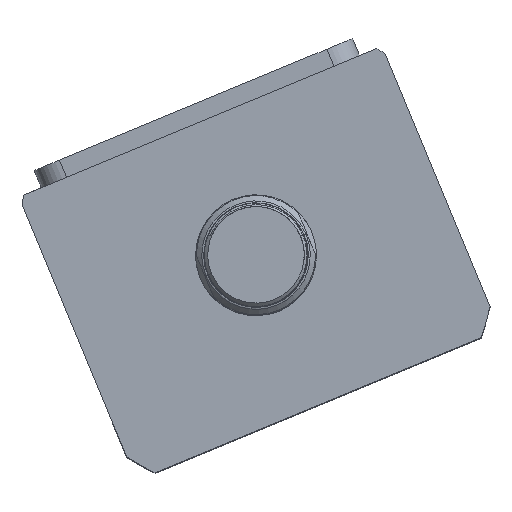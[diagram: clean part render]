
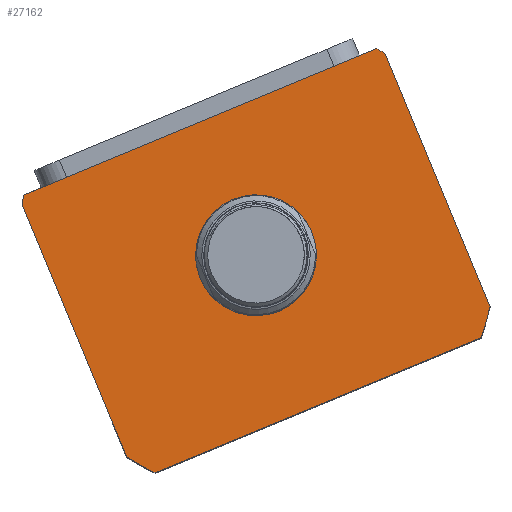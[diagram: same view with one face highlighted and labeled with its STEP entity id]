
A CAD part, top view. The second image highlights one B-rep face of the part: STEP entity #27162.
In plain terms, the highlighted planar face has unit normal (0, 0, 1) as drawn and (0, 0, -1) by its records, which use the part's own axes.
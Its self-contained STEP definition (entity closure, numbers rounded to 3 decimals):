
#134 = DIRECTION ( 'NONE',  ( 1., 0., 0. ) ) ;
#402 = FACE_BOUND ( 'NONE', #1597, .T. ) ;
#544 = ORIENTED_EDGE ( 'NONE', *, *, #7563, .F. ) ;
#1103 = AXIS2_PLACEMENT_3D ( 'NONE', #12159, #27207, #14321 ) ;
#1455 = CARTESIAN_POINT ( 'NONE',  ( 0., -59.497, 0. ) ) ;
#1597 = EDGE_LOOP ( 'NONE', ( #18872, #16480 ) ) ;
#1700 = VERTEX_POINT ( 'NONE', #13099 ) ;
#1832 = CARTESIAN_POINT ( 'NONE',  ( 57., -17.497, 0. ) ) ;
#1847 = CIRCLE ( 'NONE', #1103, 69.5 ) ;
#2014 = VERTEX_POINT ( 'NONE', #27570 ) ;
#2079 = CARTESIAN_POINT ( 'NONE',  ( -51.198, -106.497, 0. ) ) ;
#2104 = DIRECTION ( 'NONE',  ( 1., 0., 0. ) ) ;
#2388 = CARTESIAN_POINT ( 'NONE',  ( -57., -99.262, 0. ) ) ;
#2408 = VERTEX_POINT ( 'NONE', #21175 ) ;
#2774 = ORIENTED_EDGE ( 'NONE', *, *, #10081, .F. ) ;
#3569 = DIRECTION ( 'NONE',  ( -1., 0., 0. ) ) ;
#3634 = DIRECTION ( 'NONE',  ( 1., 0., 0. ) ) ;
#4037 = AXIS2_PLACEMENT_3D ( 'NONE', #27905, #15027, #2104 ) ;
#4362 = VERTEX_POINT ( 'NONE', #11487 ) ;
#4815 = VERTEX_POINT ( 'NONE', #7272 ) ;
#4907 = EDGE_CURVE ( 'NONE', #1700, #16199, #21749, .T. ) ;
#5427 = VECTOR ( 'NONE', #20607, 1000. ) ;
#5432 = EDGE_CURVE ( 'NONE', #23279, #2014, #1847, .T. ) ;
#5733 = CARTESIAN_POINT ( 'NONE',  ( 0., -59.497, 0. ) ) ;
#5826 = VECTOR ( 'NONE', #3569, 1000. ) ;
#5967 = AXIS2_PLACEMENT_3D ( 'NONE', #5733, #20803, #7922 ) ;
#6825 = EDGE_CURVE ( 'NONE', #16199, #1700, #22722, .T. ) ;
#6844 = VECTOR ( 'NONE', #11552, 1000. ) ;
#7272 = CARTESIAN_POINT ( 'NONE',  ( 57., -99.262, 0. ) ) ;
#7563 = EDGE_CURVE ( 'NONE', #4815, #4362, #27413, .T. ) ;
#7922 = DIRECTION ( 'NONE',  ( 1., 0., 0. ) ) ;
#8444 = ORIENTED_EDGE ( 'NONE', *, *, #5432, .F. ) ;
#8732 = EDGE_CURVE ( 'NONE', #2408, #23279, #23029, .T. ) ;
#8851 = CARTESIAN_POINT ( 'NONE',  ( 0., -59.497, 0. ) ) ;
#9269 = EDGE_CURVE ( 'NONE', #15572, #24774, #18303, .T. ) ;
#9396 = CARTESIAN_POINT ( 'NONE',  ( -57., -106.497, 0. ) ) ;
#9590 = EDGE_LOOP ( 'NONE', ( #2774, #544, #10956, #21268, #10429, #26506, #8444, #17791 ) ) ;
#10081 = EDGE_CURVE ( 'NONE', #4362, #2408, #21304, .T. ) ;
#10184 = CIRCLE ( 'NONE', #4037, 69.5 ) ;
#10429 = ORIENTED_EDGE ( 'NONE', *, *, #25851, .F. ) ;
#10956 = ORIENTED_EDGE ( 'NONE', *, *, #10968, .F. ) ;
#10968 = EDGE_CURVE ( 'NONE', #24774, #4815, #10184, .T. ) ;
#11011 = DIRECTION ( 'NONE',  ( 1., 0., 0. ) ) ;
#11236 = CIRCLE ( 'NONE', #19746, 69.5 ) ;
#11487 = CARTESIAN_POINT ( 'NONE',  ( 57., -19.732, 0. ) ) ;
#11516 = EDGE_CURVE ( 'NONE', #2014, #12170, #16918, .T. ) ;
#11552 = DIRECTION ( 'NONE',  ( 1., 0., 0. ) ) ;
#12057 = CARTESIAN_POINT ( 'NONE',  ( -57., -17.497, 0. ) ) ;
#12159 = CARTESIAN_POINT ( 'NONE',  ( 0., -59.497, 0. ) ) ;
#12170 = VERTEX_POINT ( 'NONE', #2388 ) ;
#12493 = DIRECTION ( 'NONE',  ( 0., 0., 1. ) ) ;
#13070 = PLANE ( 'NONE',  #22466 ) ;
#13099 = CARTESIAN_POINT ( 'NONE',  ( -17.5, -59.497, 0. ) ) ;
#13724 = AXIS2_PLACEMENT_3D ( 'NONE', #25399, #12493, #27532 ) ;
#14027 = CARTESIAN_POINT ( 'NONE',  ( -57., -17.497, 0. ) ) ;
#14313 = CARTESIAN_POINT ( 'NONE',  ( -55.374, -17.497, 0. ) ) ;
#14321 = DIRECTION ( 'NONE',  ( 1., 0., 0. ) ) ;
#15027 = DIRECTION ( 'NONE',  ( 0., 0., 1. ) ) ;
#15052 = DIRECTION ( 'NONE',  ( 0., 0., 1. ) ) ;
#15572 = VERTEX_POINT ( 'NONE', #2079 ) ;
#16199 = VERTEX_POINT ( 'NONE', #27187 ) ;
#16480 = ORIENTED_EDGE ( 'NONE', *, *, #4907, .T. ) ;
#16560 = DIRECTION ( 'NONE',  ( 0., 0., 1. ) ) ;
#16918 = LINE ( 'NONE', #14027, #5427 ) ;
#16957 = FACE_OUTER_BOUND ( 'NONE', #9590, .T. ) ;
#17400 = AXIS2_PLACEMENT_3D ( 'NONE', #1455, #16560, #3634 ) ;
#17791 = ORIENTED_EDGE ( 'NONE', *, *, #8732, .F. ) ;
#18303 = LINE ( 'NONE', #9396, #6844 ) ;
#18766 = CARTESIAN_POINT ( 'NONE',  ( 51.198, -106.497, 0. ) ) ;
#18872 = ORIENTED_EDGE ( 'NONE', *, *, #6825, .T. ) ;
#19746 = AXIS2_PLACEMENT_3D ( 'NONE', #8851, #23924, #11011 ) ;
#20607 = DIRECTION ( 'NONE',  ( 0., -1., 0. ) ) ;
#20803 = DIRECTION ( 'NONE',  ( 0., 0., 1. ) ) ;
#21027 = VECTOR ( 'NONE', #25501, 1000. ) ;
#21175 = CARTESIAN_POINT ( 'NONE',  ( 55.374, -17.497, 0. ) ) ;
#21268 = ORIENTED_EDGE ( 'NONE', *, *, #9269, .F. ) ;
#21304 = CIRCLE ( 'NONE', #13724, 69.5 ) ;
#21749 = CIRCLE ( 'NONE', #5967, 17.5 ) ;
#22466 = AXIS2_PLACEMENT_3D ( 'NONE', #23805, #15052, #134 ) ;
#22722 = CIRCLE ( 'NONE', #17400, 17.5 ) ;
#23029 = LINE ( 'NONE', #12057, #5826 ) ;
#23279 = VERTEX_POINT ( 'NONE', #14313 ) ;
#23805 = CARTESIAN_POINT ( 'NONE',  ( 0., 0., 0. ) ) ;
#23924 = DIRECTION ( 'NONE',  ( 0., 0., 1. ) ) ;
#24774 = VERTEX_POINT ( 'NONE', #18766 ) ;
#25399 = CARTESIAN_POINT ( 'NONE',  ( 0., -59.497, 0. ) ) ;
#25501 = DIRECTION ( 'NONE',  ( 0., 1., 0. ) ) ;
#25851 = EDGE_CURVE ( 'NONE', #12170, #15572, #11236, .T. ) ;
#26506 = ORIENTED_EDGE ( 'NONE', *, *, #11516, .F. ) ;
#27162 = ADVANCED_FACE ( 'NONE', ( #402, #16957 ), #13070, .F. ) ;
#27187 = CARTESIAN_POINT ( 'NONE',  ( 17.5, -59.497, 0. ) ) ;
#27207 = DIRECTION ( 'NONE',  ( 0., 0., 1. ) ) ;
#27413 = LINE ( 'NONE', #1832, #21027 ) ;
#27532 = DIRECTION ( 'NONE',  ( 1., 0., 0. ) ) ;
#27570 = CARTESIAN_POINT ( 'NONE',  ( -57., -19.732, 0. ) ) ;
#27905 = CARTESIAN_POINT ( 'NONE',  ( 0., -59.497, 0. ) ) ;
